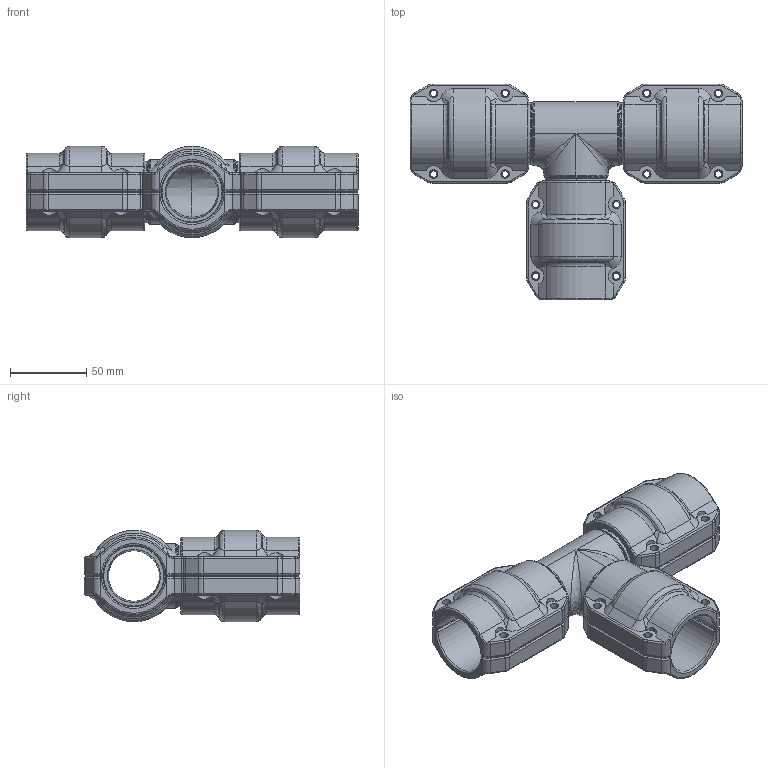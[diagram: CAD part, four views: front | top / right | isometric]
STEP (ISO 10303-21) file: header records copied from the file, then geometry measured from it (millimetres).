
FILE_DESCRIPTION((''),'2;1');
FILE_NAME('2015400599_ASM_8_ASM','2017-05-15T',('Administrator'),(''),'PRO/ENGINEER BY PARAMETRIC TECHNOLOGY CORPORATION, 2009360','PRO/ENGINEER BY PARAMETRIC TECHNOLOGY CORPORATION, 2009360','');
FILE_SCHEMA(('AUTOMOTIVE_DESIGN_CC2 { 1 2 10303 214 -1 1 5 2 }'));
Length unit declared in the file: millimetre
Products named in the file (5): 2015400500_7; 201540020001_1; 201540020000_1; 2015400200_ASM_1_ASM; 2015400599_ASM_8_ASM
Assembly tree (6 placements, depth 3):
  2015400599_ASM_8_ASM
    2015400500_7
    2015400200_ASM_1_ASM  x3
      201540020001_1
      201540020000_1
Bounding box: 218 x 141.5 x 59.9 mm (x, y, z)
Volume: 366931.4 mm3; surface area: 136528.1 mm2
Topology: 7 solids, 7 shells, 688 faces, 1816 edges, 1113 vertices
Faces by surface type: cylinder 287, torus 168, plane 111, bspline 74, cone 24, sphere 24
Entity records: 11998 total; most frequent: CARTESIAN_POINT 3447, DIRECTION 1398, ORIENTED_EDGE 1348, PRESENTATION_STYLE_ASSIGNMENT 677, STYLED_ITEM 677, CURVE_STYLE 674, EDGE_CURVE 674, AXIS2_PLACEMENT_3D 599
